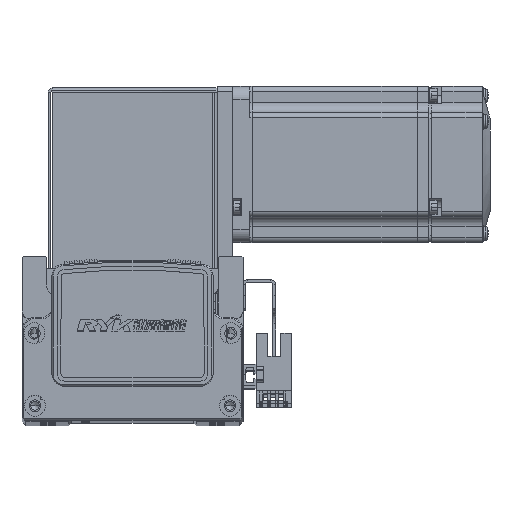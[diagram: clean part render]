
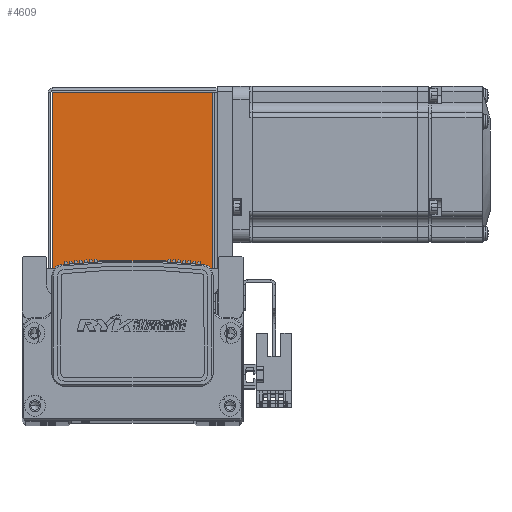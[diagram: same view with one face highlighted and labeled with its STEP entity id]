
A CAD part, top view. The second image highlights one B-rep face of the part: STEP entity #4609.
In plain terms, the highlighted planar face has unit normal (0, 0, 1) as drawn and (0, 0, -1) by its records, which use the part's own axes.
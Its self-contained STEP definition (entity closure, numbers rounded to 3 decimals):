
#2265 = DIRECTION ( 'NONE',  ( 1., 0., 0. ) ) ;
#2403 = CARTESIAN_POINT ( 'NONE',  ( 32.5, 0.737, -35. ) ) ;
#4609 = ADVANCED_FACE ( 'NONE', ( #7678 ), #67775, .F. ) ;
#5941 = CARTESIAN_POINT ( 'NONE',  ( 30.763, 68.5, -35. ) ) ;
#5994 = CARTESIAN_POINT ( 'NONE',  ( -30.793, 68.5, -35. ) ) ;
#6085 = CARTESIAN_POINT ( 'NONE',  ( -30.793, 0.737, -35. ) ) ;
#6092 = CARTESIAN_POINT ( 'NONE',  ( 30.763, 0.737, -35. ) ) ;
#7678 = FACE_OUTER_BOUND ( 'NONE', #71479, .T. ) ;
#27019 = LINE ( 'NONE', #82197, #27076 ) ;
#27068 = LINE ( 'NONE', #82211, #27073 ) ;
#27073 = VECTOR ( 'NONE', #82214, 1000. ) ;
#27076 = VECTOR ( 'NONE', #82248, 1000. ) ;
#27099 = LINE ( 'NONE', #82398, #27135 ) ;
#27135 = VECTOR ( 'NONE', #82370, 1000. ) ;
#27172 = LINE ( 'NONE', #2403, #27174 ) ;
#27174 = VECTOR ( 'NONE', #2265, 1000. ) ;
#29312 = VERTEX_POINT ( 'NONE', #5941 ) ;
#29390 = VERTEX_POINT ( 'NONE', #5994 ) ;
#29401 = VERTEX_POINT ( 'NONE', #6092 ) ;
#29438 = VERTEX_POINT ( 'NONE', #6085 ) ;
#30366 = EDGE_CURVE ( 'NONE', #29312, #29401, #27068, .T. ) ;
#30374 = EDGE_CURVE ( 'NONE', #29438, #29390, #27019, .T. ) ;
#30503 = EDGE_CURVE ( 'NONE', #29390, #29312, #27099, .T. ) ;
#30531 = EDGE_CURVE ( 'NONE', #29438, #29401, #27172, .T. ) ;
#54145 = AXIS2_PLACEMENT_3D ( 'NONE', #67831, #67768, #67752 ) ;
#67752 = DIRECTION ( 'NONE',  ( 0., -1., 0. ) ) ;
#67768 = DIRECTION ( 'NONE',  ( 0., 0., 1. ) ) ;
#67775 = PLANE ( 'NONE',  #54145 ) ;
#67831 = CARTESIAN_POINT ( 'NONE',  ( 0., 0., -35. ) ) ;
#71479 = EDGE_LOOP ( 'NONE', ( #76944, #76957, #76973, #77002 ) ) ;
#76944 = ORIENTED_EDGE ( 'NONE', *, *, #30366, .T. ) ;
#76957 = ORIENTED_EDGE ( 'NONE', *, *, #30531, .F. ) ;
#76973 = ORIENTED_EDGE ( 'NONE', *, *, #30374, .T. ) ;
#77002 = ORIENTED_EDGE ( 'NONE', *, *, #30503, .T. ) ;
#82197 = CARTESIAN_POINT ( 'NONE',  ( -30.793, 0., -35. ) ) ;
#82211 = CARTESIAN_POINT ( 'NONE',  ( 30.763, 68.5, -35. ) ) ;
#82214 = DIRECTION ( 'NONE',  ( 0., -1., 0. ) ) ;
#82248 = DIRECTION ( 'NONE',  ( 0., 1., 0. ) ) ;
#82370 = DIRECTION ( 'NONE',  ( 1., 0., 0. ) ) ;
#82398 = CARTESIAN_POINT ( 'NONE',  ( 0., 68.5, -35. ) ) ;
